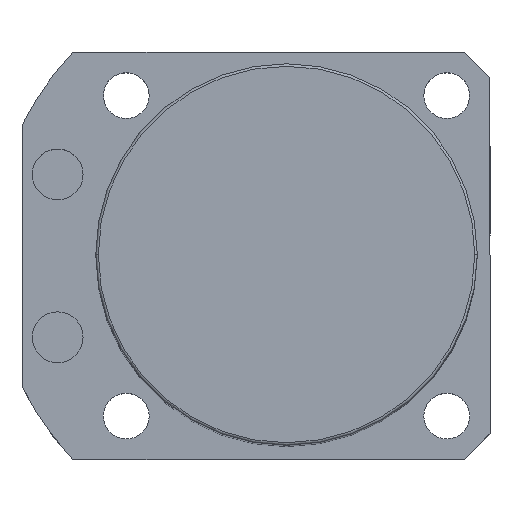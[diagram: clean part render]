
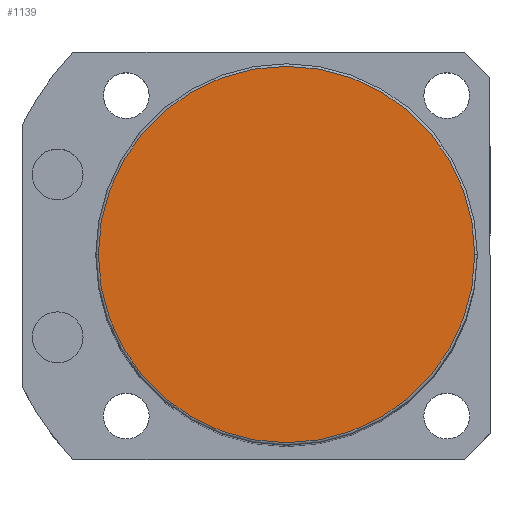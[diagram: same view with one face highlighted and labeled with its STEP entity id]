
A CAD part, top view. The second image highlights one B-rep face of the part: STEP entity #1139.
In plain terms, the highlighted planar face has unit normal (0, 0, 1).
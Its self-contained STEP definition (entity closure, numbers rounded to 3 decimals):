
#193 = DIRECTION ( 'NONE',  ( 0., 0., 1. ) ) ;
#359 = AXIS2_PLACEMENT_3D ( 'NONE', #1338, #193, #386 ) ;
#375 = PLANE ( 'NONE',  #897 ) ;
#386 = DIRECTION ( 'NONE',  ( 1., 0., 0. ) ) ;
#551 = VERTEX_POINT ( 'NONE', #2386 ) ;
#690 = CARTESIAN_POINT ( 'NONE',  ( 0., 0., 170.5 ) ) ;
#849 = DIRECTION ( 'NONE',  ( 1., 0., 0. ) ) ;
#851 = CIRCLE ( 'NONE', #2031, 37. ) ;
#878 = DIRECTION ( 'NONE',  ( 0., 0., 1. ) ) ;
#897 = AXIS2_PLACEMENT_3D ( 'NONE', #2462, #2443, #1495 ) ;
#946 = CIRCLE ( 'NONE', #359, 37. ) ;
#1139 = ADVANCED_FACE ( 'NONE', ( #1761 ), #375, .T. ) ;
#1330 = ORIENTED_EDGE ( 'NONE', *, *, #2399, .T. ) ;
#1338 = CARTESIAN_POINT ( 'NONE',  ( 0., 0., 170.5 ) ) ;
#1405 = EDGE_CURVE ( 'NONE', #2199, #551, #851, .T. ) ;
#1476 = CARTESIAN_POINT ( 'NONE',  ( -37., 0., 170.5 ) ) ;
#1495 = DIRECTION ( 'NONE',  ( 1., 0., 0. ) ) ;
#1761 = FACE_OUTER_BOUND ( 'NONE', #2285, .T. ) ;
#1960 = ORIENTED_EDGE ( 'NONE', *, *, #1405, .T. ) ;
#2031 = AXIS2_PLACEMENT_3D ( 'NONE', #690, #878, #849 ) ;
#2199 = VERTEX_POINT ( 'NONE', #1476 ) ;
#2285 = EDGE_LOOP ( 'NONE', ( #1330, #1960 ) ) ;
#2386 = CARTESIAN_POINT ( 'NONE',  ( 37., 0., 170.5 ) ) ;
#2399 = EDGE_CURVE ( 'NONE', #551, #2199, #946, .T. ) ;
#2443 = DIRECTION ( 'NONE',  ( 0., 0., 1. ) ) ;
#2462 = CARTESIAN_POINT ( 'NONE',  ( 0., 0., 170.5 ) ) ;
